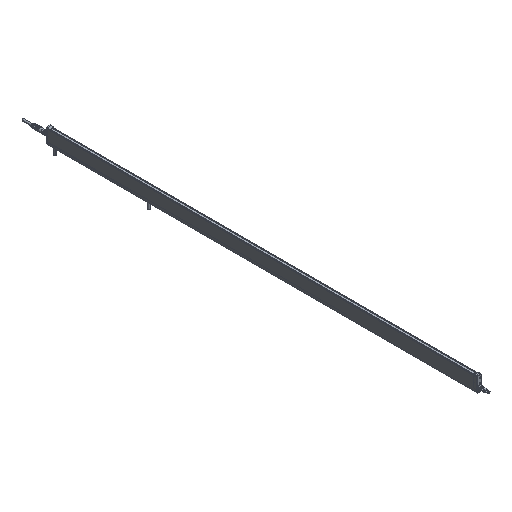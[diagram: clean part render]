
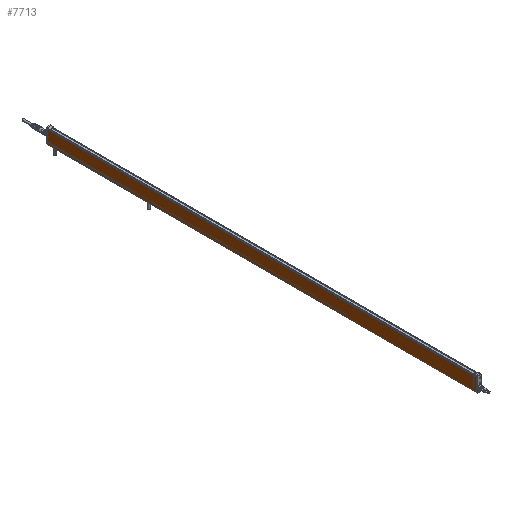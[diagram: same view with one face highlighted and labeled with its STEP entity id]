
A CAD part, isometric view. The second image highlights one B-rep face of the part: STEP entity #7713.
In plain terms, the highlighted planar face has unit normal (-1, 0, 0).
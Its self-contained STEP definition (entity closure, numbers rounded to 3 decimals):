
#248 = VERTEX_POINT ( 'NONE', #9368 ) ;
#1437 = DIRECTION ( 'NONE',  ( 0., -1., 0. ) ) ;
#1651 = EDGE_CURVE ( 'NONE', #33083, #248, #27862, .T. ) ;
#2593 = VECTOR ( 'NONE', #13252, 1000. ) ;
#2892 = LINE ( 'NONE', #19575, #15317 ) ;
#4424 = ORIENTED_EDGE ( 'NONE', *, *, #18551, .T. ) ;
#6264 = CARTESIAN_POINT ( 'NONE',  ( -9., 915., 28.5 ) ) ;
#6618 = AXIS2_PLACEMENT_3D ( 'NONE', #17685, #33272, #12273 ) ;
#6783 = EDGE_CURVE ( 'NONE', #29738, #29525, #2892, .T. ) ;
#7552 = CARTESIAN_POINT ( 'NONE',  ( -9., 915., 28.5 ) ) ;
#7713 = ADVANCED_FACE ( 'NONE', ( #30891 ), #12046, .T. ) ;
#8739 = DIRECTION ( 'NONE',  ( 0., -1., 0. ) ) ;
#9368 = CARTESIAN_POINT ( 'NONE',  ( -9., 0., 28.5 ) ) ;
#12046 = PLANE ( 'NONE',  #6618 ) ;
#12273 = DIRECTION ( 'NONE',  ( 0., -1., 0. ) ) ;
#12608 = VECTOR ( 'NONE', #24625, 1000. ) ;
#12836 = EDGE_CURVE ( 'NONE', #248, #29525, #15000, .T. ) ;
#13252 = DIRECTION ( 'NONE',  ( 0., 0., -1. ) ) ;
#15000 = LINE ( 'NONE', #23909, #2593 ) ;
#15317 = VECTOR ( 'NONE', #8739, 1000. ) ;
#17685 = CARTESIAN_POINT ( 'NONE',  ( -9., 915., 28.5 ) ) ;
#18233 = ORIENTED_EDGE ( 'NONE', *, *, #6783, .T. ) ;
#18551 = EDGE_CURVE ( 'NONE', #33083, #29738, #31999, .T. ) ;
#19575 = CARTESIAN_POINT ( 'NONE',  ( -9., 915., 0.5 ) ) ;
#23909 = CARTESIAN_POINT ( 'NONE',  ( -9., 0., 28.5 ) ) ;
#24215 = CARTESIAN_POINT ( 'NONE',  ( -9., 0., 0.5 ) ) ;
#24625 = DIRECTION ( 'NONE',  ( 0., 0., -1. ) ) ;
#26030 = ORIENTED_EDGE ( 'NONE', *, *, #1651, .F. ) ;
#27862 = LINE ( 'NONE', #27933, #34011 ) ;
#27933 = CARTESIAN_POINT ( 'NONE',  ( -9., 915., 28.5 ) ) ;
#29525 = VERTEX_POINT ( 'NONE', #24215 ) ;
#29738 = VERTEX_POINT ( 'NONE', #33253 ) ;
#30891 = FACE_OUTER_BOUND ( 'NONE', #31527, .T. ) ;
#31527 = EDGE_LOOP ( 'NONE', ( #33609, #26030, #4424, #18233 ) ) ;
#31999 = LINE ( 'NONE', #6264, #12608 ) ;
#33083 = VERTEX_POINT ( 'NONE', #7552 ) ;
#33253 = CARTESIAN_POINT ( 'NONE',  ( -9., 915., 0.5 ) ) ;
#33272 = DIRECTION ( 'NONE',  ( -1., 0., 0. ) ) ;
#33609 = ORIENTED_EDGE ( 'NONE', *, *, #12836, .F. ) ;
#34011 = VECTOR ( 'NONE', #1437, 1000. ) ;
